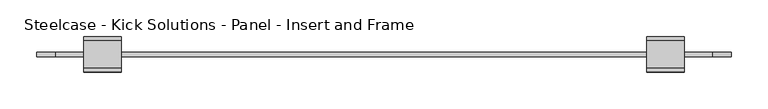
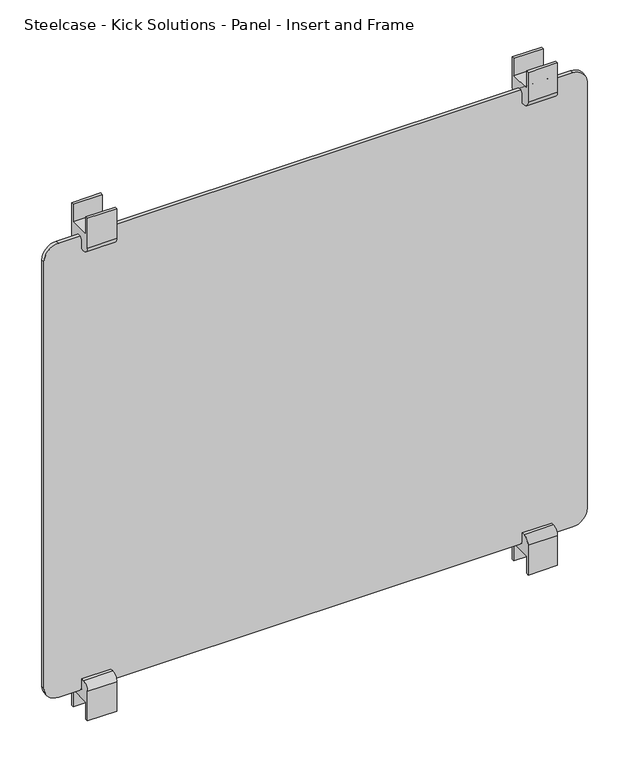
"""IFC4 building model written with IfcOpenShell, lengths in millimetres: furniture geometry, Steelcase - Kick Solutions - Panel - Insert and Frame : Laminate - 42H x 42W."""

from ifc_helpers import new_model, si_unit, point, frame, frame_2d, origin, place, context, project, spatial, polyline, circle_curve, trimmed, segment, composite_curve, outline, extrude, source, transform, mapped, element, save


def steelcase_kick_solutions_panel_insert_and_frame_d8343b1b(model_context):
    return source(origin(), model_context, "Body", "SweptSolid", [
        extrude(outline(composite_curve([segment(polyline([(5.3821989, 1041.4), (10.144699, 1041.4), (10.144699, 986.713221)]), True, "CONTINUOUS"), segment(trimmed(circle_curve(frame_2d((-1.6831687, 986.713221)), 11.8278677), [point((10.144699, 986.713221))], [point((-1.6831687, 974.8853533))], False, "CARTESIAN"), True, "CONTINUOUS"), segment(polyline([(-1.6831687, 974.8853533), (-7.3178012, 974.8853533), (-7.3178012, 990.2857521)]), True, "CONTINUOUS"), segment(trimmed(circle_curve(frame_2d((-13.667801, 990.2857521)), 6.3499998), [point((-7.3178012, 990.2857521))], [point((-20.0178007, 990.2857521))], True, "CARTESIAN"), True, "CONTINUOUS"), segment(polyline([(-20.0178007, 990.2857521), (-20.0178007, 974.8853527), (-25.2074988, 974.8853527)]), True, "CONTINUOUS"), segment(trimmed(circle_curve(frame_2d((-25.2074988, 987.1581549)), 12.2728022), [point((-25.2074988, 974.8853527))], [point((-37.480301, 987.1581549))], False, "CARTESIAN"), True, "CONTINUOUS"), segment(polyline([(-37.480301, 987.1581549), (-37.480301, 1041.4), (-32.7177988, 1041.4), (-32.7177988, 1009.6499758), (5.3821989, 1009.6499758), (5.3821989, 1041.4)]), True, "CONTINUOUS")], self_intersect=False)), frame((889.9148583, 0.0, 0.0), z_axis=(1.0, 0.0, 0.0), x_axis=(0.0, 1.0, 0.0)), (0.0, 0.0, 1.0), 50.8),
        extrude(outline(composite_curve([segment(polyline([(5.3821989, 120.6499576), (5.3821989, 152.3999815), (-32.7177988, 152.3999815), (-32.7177988, 120.6499576), (-37.480301, 120.6499576), (-37.480301, 174.8918024)]), True, "CONTINUOUS"), segment(trimmed(circle_curve(frame_2d((-25.2074988, 174.8918024)), 12.2728022), [point((-37.480301, 174.8918024))], [point((-25.2074988, 187.1646046))], False, "CARTESIAN"), True, "CONTINUOUS"), segment(polyline([(-25.2074988, 187.1646046), (-20.0178007, 187.1646046), (-20.0178007, 171.7642058)]), True, "CONTINUOUS"), segment(trimmed(circle_curve(frame_2d((-13.667801, 171.7642058)), 6.3499998), [point((-20.0178007, 171.7642058))], [point((-7.3178012, 171.7642058))], True, "CARTESIAN"), True, "CONTINUOUS"), segment(polyline([(-7.3178012, 171.7642058), (-7.3178012, 187.1646046), (-1.6831687, 187.1646046)]), True, "CONTINUOUS"), segment(trimmed(circle_curve(frame_2d((-1.6831687, 175.3367369)), 11.8278677), [point((-1.6831687, 187.1646046))], [point((10.144699, 175.3367369))], False, "CARTESIAN"), True, "CONTINUOUS"), segment(polyline([(10.144699, 175.3367369), (10.144699, 120.6499576), (5.3821989, 120.6499576)]), True, "CONTINUOUS")], self_intersect=False)), frame((889.9148583, 0.0, 0.0), z_axis=(1.0, 0.0, 0.0), x_axis=(0.0, 1.0, 0.0)), (0.0, 0.0, 1.0), 50.8),
        extrude(outline(composite_curve([segment(polyline([(5.3821989, 1041.4), (10.144699, 1041.4), (10.144699, 986.7132204)]), True, "CONTINUOUS"), segment(trimmed(circle_curve(frame_2d((-1.6831684, 986.7132204)), 11.8278674), [point((10.144699, 986.7132204))], [point((-1.6831684, 974.885353))], False, "CARTESIAN"), True, "CONTINUOUS"), segment(polyline([(-1.6831684, 974.885353), (-7.3178009, 974.885353), (-7.3178009, 990.2857521)]), True, "CONTINUOUS"), segment(trimmed(circle_curve(frame_2d((-13.667801, 990.2857521)), 6.3500001), [point((-7.3178009, 990.2857521))], [point((-20.017801, 990.2857521))], True, "CARTESIAN"), True, "CONTINUOUS"), segment(polyline([(-20.017801, 990.2857521), (-20.017801, 974.885353), (-25.2074991, 974.885353)]), True, "CONTINUOUS"), segment(trimmed(circle_curve(frame_2d((-25.2074991, 987.1581549)), 12.2728019), [point((-25.2074991, 974.885353))], [point((-37.480301, 987.1581549))], False, "CARTESIAN"), True, "CONTINUOUS"), segment(polyline([(-37.480301, 987.1581549), (-37.480301, 1041.4), (-32.7177988, 1041.4), (-32.7177988, 1009.6499758), (5.3821989, 1009.6499758), (5.3821989, 1041.4)]), True, "CONTINUOUS")], self_intersect=False)), frame((126.0851417, 0.0, 0.0), z_axis=(1.0, 0.0, 0.0), x_axis=(0.0, 1.0, 0.0)), (0.0, 0.0, 1.0), 50.8),
        extrude(outline(composite_curve([segment(polyline([(5.3821989, 120.6499576), (5.3821989, 152.3999818), (-32.7177988, 152.3999818), (-32.7177988, 120.6499576), (-37.480301, 120.6499576), (-37.480301, 174.8918027)]), True, "CONTINUOUS"), segment(trimmed(circle_curve(frame_2d((-25.2074991, 174.8918027)), 12.2728019), [point((-37.480301, 174.8918027))], [point((-25.2074991, 187.1646046))], False, "CARTESIAN"), True, "CONTINUOUS"), segment(polyline([(-25.2074991, 187.1646046), (-20.017801, 187.1646046), (-20.017801, 171.7642055)]), True, "CONTINUOUS"), segment(trimmed(circle_curve(frame_2d((-13.667801, 171.7642055)), 6.3500001), [point((-20.017801, 171.7642055))], [point((-7.3178009, 171.7642055))], True, "CARTESIAN"), True, "CONTINUOUS"), segment(polyline([(-7.3178009, 171.7642055), (-7.3178009, 187.1646041), (-1.6831684, 187.1646041)]), True, "CONTINUOUS"), segment(trimmed(circle_curve(frame_2d((-1.6831684, 175.3367366)), 11.8278674), [point((-1.6831684, 187.1646041))], [point((10.144699, 175.3367366))], False, "CARTESIAN"), True, "CONTINUOUS"), segment(polyline([(10.144699, 175.3367366), (10.144699, 120.6499576), (5.3821989, 120.6499576)]), True, "CONTINUOUS")], self_intersect=False)), frame((126.0851417, 0.0, 0.0), z_axis=(1.0, 0.0, 0.0), x_axis=(0.0, 1.0, 0.0)), (0.0, 0.0, 1.0), 50.8),
        extrude(outline(composite_curve([segment(polyline([(996.9499516, 978.8148583), (996.9499516, 87.9851417)]), True, "CONTINUOUS"), segment(trimmed(circle_curve(frame_2d((971.5499516, 87.9851417)), 25.4), [point((996.9499516, 87.9851417))], [point((971.5499516, 62.5851417))], False, "CARTESIAN"), True, "CONTINUOUS"), segment(polyline([(971.5499516, 62.5851417), (190.5000061, 62.5851417)]), True, "CONTINUOUS"), segment(trimmed(circle_curve(frame_2d((190.5000061, 87.9851417)), 25.4), [point((190.5000061, 62.5851417))], [point((165.1000061, 87.9851417))], False, "CARTESIAN"), True, "CONTINUOUS"), segment(polyline([(165.1000061, 87.9851417), (165.1000061, 978.8148583)]), True, "CONTINUOUS"), segment(trimmed(circle_curve(frame_2d((190.5000061, 978.8148583)), 25.4), [point((165.1000061, 978.8148583))], [point((190.5000061, 1004.2148583))], False, "CARTESIAN"), True, "CONTINUOUS"), segment(polyline([(190.5000061, 1004.2148583), (971.5499516, 1004.2148583)]), True, "CONTINUOUS"), segment(trimmed(circle_curve(frame_2d((971.5499516, 978.8148583)), 25.4), [point((971.5499516, 1004.2148583))], [point((996.9499516, 978.8148583))], False, "CARTESIAN"), True, "CONTINUOUS")], self_intersect=False)), frame((0.0, -16.8428004, 0.0), z_axis=(0.0, 1.0, 0.0), x_axis=(0.0, 0.0, 1.0)), (0.0, 0.0, 1.0), 6.3499985),
    ])


if __name__ == "__main__":
    model = new_model("IFC4")
    model_context = context("Model", 3, world=origin())
    ifc_project = project(units=[si_unit("LENGTHUNIT", "METRE", prefix="MILLI")], contexts=[model_context])
    site = spatial("IfcSite", under=ifc_project)
    building = spatial("IfcBuilding", under=site)
    placement = place(None, origin())
    steelcase_kick_solutions_panel_insert_and_frame_shape = steelcase_kick_solutions_panel_insert_and_frame_d8343b1b(model_context)
    element("IfcFurniture", 1, ObjectType="Steelcase - Kick Solutions - Panel - Insert and Frame : Laminate - 42H x 42W", at=placement, inside=building, context=model_context, shape_type="MappedRepresentation", body=[
        mapped(steelcase_kick_solutions_panel_insert_and_frame_shape, transform((0.0, 0.0, 0.0), x_axis=(1.0, 0.0, 0.0), y_axis=(0.0, 1.0, 0.0), z_axis=(0.0, 0.0, 1.0))),
    ])
    save(model, "model.ifc")
